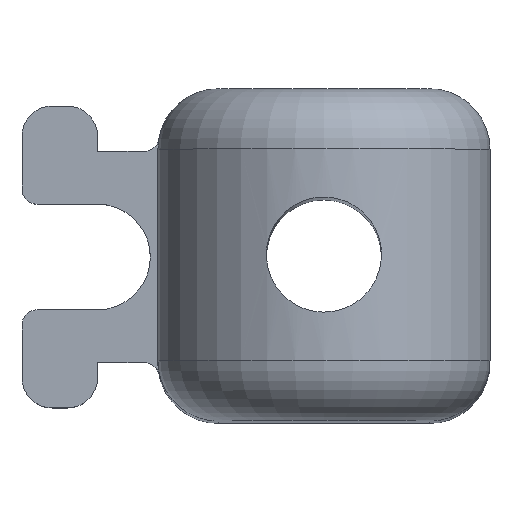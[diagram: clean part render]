
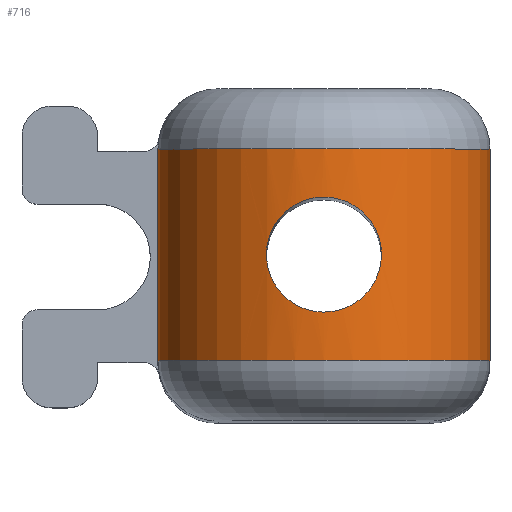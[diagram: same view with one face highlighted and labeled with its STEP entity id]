
A CAD part, top view. The second image highlights one B-rep face of the part: STEP entity #716.
In plain terms, the highlighted cylindrical face has radius 11 mm (diameter 22 mm), a partial arc.
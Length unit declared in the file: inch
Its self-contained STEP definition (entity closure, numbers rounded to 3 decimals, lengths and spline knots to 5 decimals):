
#39=FACE_BOUND('',#86,.T.);
#42=FACE_OUTER_BOUND('',#85,.T.);
#85=EDGE_LOOP('',(#482,#483,#484,#485));
#86=EDGE_LOOP('',(#486));
#129=B_SPLINE_CURVE_WITH_KNOTS('',3,(#1107,#1108,#1109,#1110,#1111,#1112,
#1113,#1114,#1115,#1116,#1117,#1118,#1119,#1120,#1121,#1122,#1123,#1124,
#1125,#1126,#1127,#1128,#1129,#1130,#1131,#1132,#1133,#1134,#1135,#1136,
#1137,#1138,#1139,#1140),.UNSPECIFIED.,.T.,.F.,(4,2,2,2,2,2,2,2,2,2,2,2,
2,2,2,2,4),(0.,0.14486,0.28973,0.43451,0.5793,
0.72409,0.86887,1.01374,1.1586,1.30347,
1.44833,1.59312,1.7379,1.88269,2.02747,
2.17234,2.3172),.UNSPECIFIED.);
#131=LINE('',#1146,#194);
#132=LINE('',#1149,#195);
#194=VECTOR('',#871,0.55118);
#195=VECTOR('',#874,0.55118);
#257=CIRCLE('',#775,0.43307);
#258=CIRCLE('',#776,0.43307);
#302=VERTEX_POINT('',#1105);
#303=VERTEX_POINT('',#1142);
#304=VERTEX_POINT('',#1143);
#305=VERTEX_POINT('',#1145);
#306=VERTEX_POINT('',#1147);
#371=EDGE_CURVE('',#302,#302,#129,.T.);
#372=EDGE_CURVE('',#303,#304,#257,.T.);
#373=EDGE_CURVE('',#303,#305,#131,.T.);
#374=EDGE_CURVE('',#306,#305,#258,.T.);
#375=EDGE_CURVE('',#304,#306,#132,.T.);
#482=ORIENTED_EDGE('',*,*,#372,.F.);
#483=ORIENTED_EDGE('',*,*,#373,.T.);
#484=ORIENTED_EDGE('',*,*,#374,.F.);
#485=ORIENTED_EDGE('',*,*,#375,.F.);
#486=ORIENTED_EDGE('',*,*,#371,.T.);
#697=CYLINDRICAL_SURFACE('',#774,0.43307);
#716=ADVANCED_FACE('',(#42,#39),#697,.T.);
#774=AXIS2_PLACEMENT_3D('',#1141,#867,#868);
#775=AXIS2_PLACEMENT_3D('',#1144,#869,#870);
#776=AXIS2_PLACEMENT_3D('',#1148,#872,#873);
#867=DIRECTION('center_axis',(0.,1.,0.));
#868=DIRECTION('ref_axis',(-1.,0.,0.));
#869=DIRECTION('center_axis',(0.,-1.,0.));
#870=DIRECTION('ref_axis',(0.,0.,1.));
#871=DIRECTION('',(0.,1.,0.));
#872=DIRECTION('center_axis',(0.,1.,0.));
#873=DIRECTION('ref_axis',(0.,0.,1.));
#874=DIRECTION('',(0.,1.,0.));
#1105=CARTESIAN_POINT('',(0.15,0.,4.3039));
#1107=CARTESIAN_POINT('Ctrl Pts',(0.15,0.,
4.3039));
#1108=CARTESIAN_POINT('Ctrl Pts',(0.15,-0.01901,
4.3039));
#1109=CARTESIAN_POINT('Ctrl Pts',(0.14617,-0.03917,
4.30538));
#1110=CARTESIAN_POINT('Ctrl Pts',(0.13081,-0.07607,
4.31056));
#1111=CARTESIAN_POINT('Ctrl Pts',(0.1193,-0.09283,
4.31418));
#1112=CARTESIAN_POINT('Ctrl Pts',(0.09284,-0.11929,
4.32086));
#1113=CARTESIAN_POINT('Ctrl Pts',(0.07608,-0.13081,
4.32438));
#1114=CARTESIAN_POINT('Ctrl Pts',(0.03916,-0.14617,
4.32934));
#1115=CARTESIAN_POINT('Ctrl Pts',(0.019,-0.15,
4.33071));
#1116=CARTESIAN_POINT('Ctrl Pts',(-0.019,-0.15,
4.33071));
#1117=CARTESIAN_POINT('Ctrl Pts',(-0.03916,-0.14617,
4.32934));
#1118=CARTESIAN_POINT('Ctrl Pts',(-0.07608,-0.13081,
4.32438));
#1119=CARTESIAN_POINT('Ctrl Pts',(-0.09284,-0.11929,
4.32086));
#1120=CARTESIAN_POINT('Ctrl Pts',(-0.1193,-0.09283,
4.31418));
#1121=CARTESIAN_POINT('Ctrl Pts',(-0.13081,-0.07607,
4.31056));
#1122=CARTESIAN_POINT('Ctrl Pts',(-0.14617,-0.03917,
4.30538));
#1123=CARTESIAN_POINT('Ctrl Pts',(-0.15,-0.01901,
4.3039));
#1124=CARTESIAN_POINT('Ctrl Pts',(-0.15,0.01901,
4.3039));
#1125=CARTESIAN_POINT('Ctrl Pts',(-0.14617,0.03917,
4.30538));
#1126=CARTESIAN_POINT('Ctrl Pts',(-0.13081,0.07607,
4.31056));
#1127=CARTESIAN_POINT('Ctrl Pts',(-0.1193,0.09283,
4.31418));
#1128=CARTESIAN_POINT('Ctrl Pts',(-0.09284,0.11929,
4.32086));
#1129=CARTESIAN_POINT('Ctrl Pts',(-0.07608,0.13081,
4.32438));
#1130=CARTESIAN_POINT('Ctrl Pts',(-0.03916,0.14617,
4.32934));
#1131=CARTESIAN_POINT('Ctrl Pts',(-0.019,0.15,
4.33071));
#1132=CARTESIAN_POINT('Ctrl Pts',(0.019,0.15,
4.33071));
#1133=CARTESIAN_POINT('Ctrl Pts',(0.03916,0.14617,
4.32934));
#1134=CARTESIAN_POINT('Ctrl Pts',(0.07608,0.13081,
4.32438));
#1135=CARTESIAN_POINT('Ctrl Pts',(0.09284,0.11929,
4.32086));
#1136=CARTESIAN_POINT('Ctrl Pts',(0.1193,0.09283,
4.31418));
#1137=CARTESIAN_POINT('Ctrl Pts',(0.13081,0.07607,
4.31056));
#1138=CARTESIAN_POINT('Ctrl Pts',(0.14617,0.03917,
4.30538));
#1139=CARTESIAN_POINT('Ctrl Pts',(0.15,0.01901,
4.3039));
#1140=CARTESIAN_POINT('Ctrl Pts',(0.15,0.,
4.3039));
#1141=CARTESIAN_POINT('Origin',(0.,0.,3.89764));
#1142=CARTESIAN_POINT('',(0.43307,-0.27559,3.89764));
#1143=CARTESIAN_POINT('',(-0.43307,-0.27559,3.89764));
#1144=CARTESIAN_POINT('Origin',(0.,-0.27559,
3.89764));
#1145=CARTESIAN_POINT('',(0.43307,0.27559,3.89764));
#1146=CARTESIAN_POINT('',(0.43307,-0.27559,3.89764));
#1147=CARTESIAN_POINT('',(-0.43307,0.27559,3.89764));
#1148=CARTESIAN_POINT('Origin',(0.,0.27559,
3.89764));
#1149=CARTESIAN_POINT('',(-0.43307,-0.27559,3.89764));
